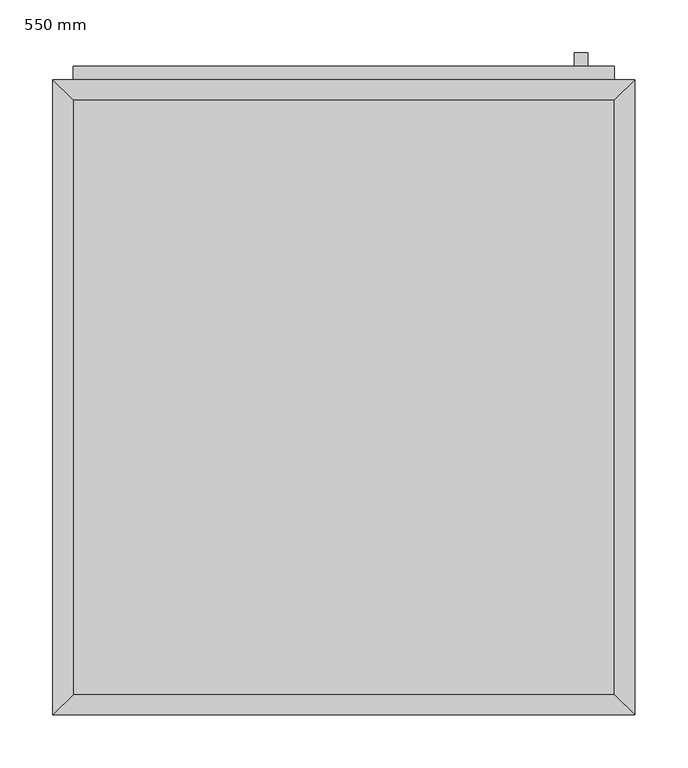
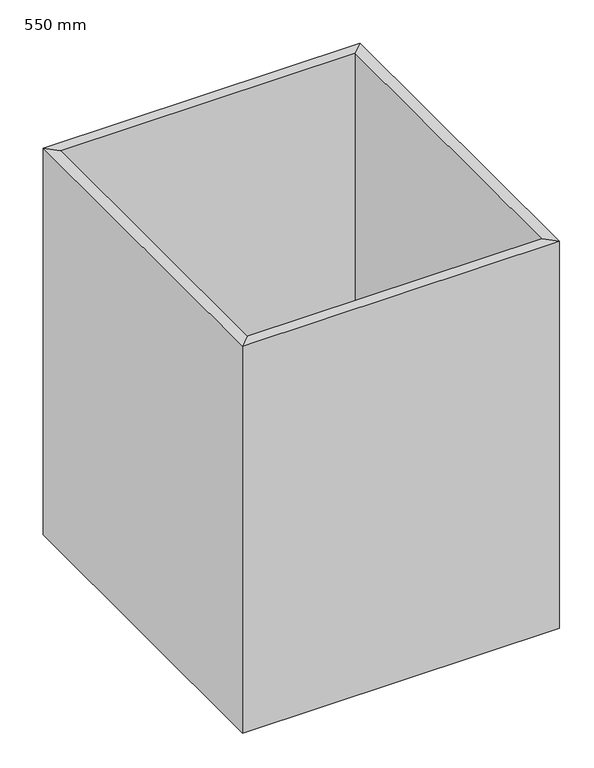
"""IFC4 building model written with IfcOpenShell, lengths in millimetres: furniture geometry, Armario-Una puerta : 550 mm."""

from ifc_helpers import new_model, si_unit, frame, origin, place, context, project, spatial, polyline, outline, extrude, faceted_brep, source, transform, mapped, element, save


def furniture_550_mm_c334357f(model_context):
    return source(origin(), model_context, "Body", "SolidModel", [
        extrude(outline(polyline([(274.6877049, 19.05), (-237.2122951, 19.05), (-237.2122951, 580.95), (274.6877049, 580.95), (274.6877049, 19.05)])), frame((0.0, 0.0, 150.0), z_axis=(0.0, 0.0, 1.0), x_axis=(1.0, 0.0, 0.0)), (0.0, 0.0, 1.0), 19.05),
        faceted_brep([(274.6877049, 580.95, 860.0), (-237.2122951, 580.95, 860.0), (-237.2122951, 580.95, 150.0), (274.6877049, 580.95, 150.0), (293.7377049, 600.0, 860.0), (-256.2622951, 600.0, 860.0), (293.7377049, 600.0, 150.0), (-256.2622951, 600.0, 150.0), (-237.2122951, 19.05, 860.0), (-237.2122951, 19.05, 150.0), (-256.2622951, 0.0, 860.0), (-256.2622951, 0.0, 150.0), (274.6877049, 19.05, 860.0), (274.6877049, 19.05, 150.0), (293.7377049, 0.0, 860.0), (293.7377049, 0.0, 150.0)], [[[0, 1, 2, 3]], [[4, 5, 1, 0]], [[6, 7, 5, 4]], [[3, 2, 7, 6]], [[1, 8, 9, 2]], [[5, 10, 8, 1]], [[7, 11, 10, 5]], [[2, 9, 11, 7]], [[8, 12, 13, 9]], [[10, 14, 12, 8]], [[11, 15, 14, 10]], [[9, 13, 15, 11]], [[12, 0, 3, 13]], [[14, 4, 0, 12]], [[15, 6, 4, 14]], [[13, 3, 6, 15]]]),
        extrude(outline(polyline([(274.6877049, 612.7), (274.6877049, 600.0), (-237.2122951, 600.0), (-237.2122951, 612.7), (274.6877049, 612.7)])), frame((0.0, 0.0, 169.05), z_axis=(0.0, 0.0, 1.0), x_axis=(1.0, 0.0, 0.0)), (0.0, 0.0, 1.0), 671.9),
        extrude(outline(polyline([(249.2877049, 625.4), (249.2877049, 612.7), (236.5877049, 612.7), (236.5877049, 625.4), (249.2877049, 625.4)])), frame((0.0, 0.0, 701.25), z_axis=(0.0, 0.0, 1.0), x_axis=(1.0, 0.0, 0.0)), (0.0, 0.0, 1.0), 101.6),
    ])


if __name__ == "__main__":
    model = new_model("IFC4")
    model_context = context("Model", 3, world=origin())
    ifc_project = project(units=[si_unit("LENGTHUNIT", "METRE", prefix="MILLI")], contexts=[model_context])
    site = spatial("IfcSite", under=ifc_project)
    building = spatial("IfcBuilding", under=site)
    placement = place(None, origin())
    furniture_550_mm_shape = furniture_550_mm_c334357f(model_context)
    element("IfcFurniture", 1, ObjectType="Armario-Una puerta : 550 mm", at=placement, inside=building, context=model_context, shape_type="MappedRepresentation", body=[
        mapped(furniture_550_mm_shape, transform((0.0, 0.0, 0.0), x_axis=(1.0, 0.0, 0.0), y_axis=(0.0, 1.0, 0.0), z_axis=(0.0, 0.0, 1.0))),
    ])
    save(model, "model.ifc")
